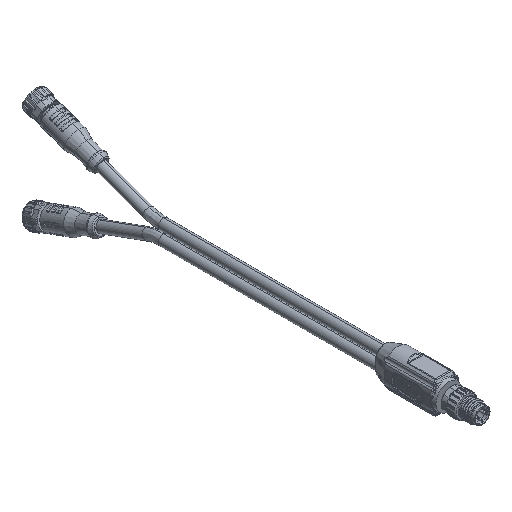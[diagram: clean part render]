
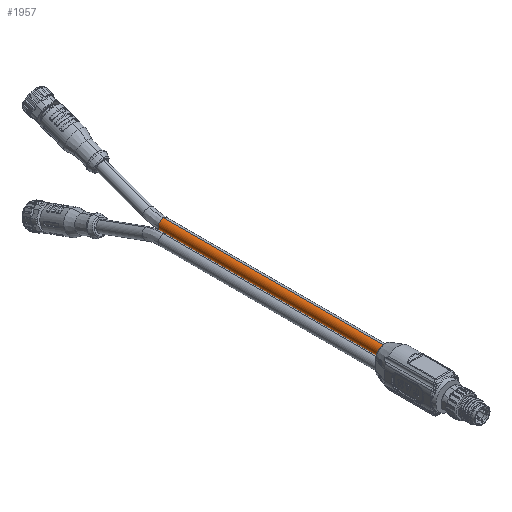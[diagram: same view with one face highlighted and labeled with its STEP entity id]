
A CAD part, isometric view. The second image highlights one B-rep face of the part: STEP entity #1957.
In plain terms, the highlighted cylindrical face has radius 2.25 mm (diameter 4.5 mm), a partial arc.
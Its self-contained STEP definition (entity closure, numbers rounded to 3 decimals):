
#162 = CARTESIAN_POINT ( 'NONE',  ( 0., 124.473, 5.25 ) ) ;
#1945 = DIRECTION ( 'NONE',  ( 0., 0., 1. ) ) ;
#1957 = ADVANCED_FACE ( 'NONE', ( #11272 ), #23246, .T. ) ;
#3007 = DIRECTION ( 'NONE',  ( 0., 1., 0. ) ) ;
#3045 = DIRECTION ( 'NONE',  ( 0., 1., 0. ) ) ;
#3835 = CIRCLE ( 'NONE', #24388, 2.25 ) ;
#6766 = VECTOR ( 'NONE', #3007, 1000. ) ;
#11173 = ORIENTED_EDGE ( 'NONE', *, *, #63429, .T. ) ;
#11272 = FACE_OUTER_BOUND ( 'NONE', #17279, .T. ) ;
#15074 = CIRCLE ( 'NONE', #53775, 2.25 ) ;
#17279 = EDGE_LOOP ( 'NONE', ( #49836, #11173, #57100, #64433 ) ) ;
#18003 = LINE ( 'NONE', #49259, #6766 ) ;
#23014 = LINE ( 'NONE', #57960, #39099 ) ;
#23246 = CYLINDRICAL_SURFACE ( 'NONE', #48452, 2.25 ) ;
#24388 = AXIS2_PLACEMENT_3D ( 'NONE', #34247, #28816, #60239 ) ;
#27476 = DIRECTION ( 'NONE',  ( 0., 1., 0. ) ) ;
#27698 = CARTESIAN_POINT ( 'NONE',  ( 0., 28., 3. ) ) ;
#28729 = DIRECTION ( 'NONE',  ( 0., 1., 0. ) ) ;
#28816 = DIRECTION ( 'NONE',  ( 0., -1., 0. ) ) ;
#34247 = CARTESIAN_POINT ( 'NONE',  ( 0., 124.473, 3. ) ) ;
#34944 = VERTEX_POINT ( 'NONE', #42071 ) ;
#38930 = DIRECTION ( 'NONE',  ( 0., 0., 1. ) ) ;
#39099 = VECTOR ( 'NONE', #28729, 1000. ) ;
#39180 = VERTEX_POINT ( 'NONE', #41452 ) ;
#41452 = CARTESIAN_POINT ( 'NONE',  ( 0., 124.473, 0.75 ) ) ;
#42071 = CARTESIAN_POINT ( 'NONE',  ( 0., 28., 5.25 ) ) ;
#46116 = EDGE_CURVE ( 'NONE', #65480, #39180, #3835, .T. ) ;
#48452 = AXIS2_PLACEMENT_3D ( 'NONE', #53317, #27476, #1945 ) ;
#49259 = CARTESIAN_POINT ( 'NONE',  ( 0., 28., 0.75 ) ) ;
#49836 = ORIENTED_EDGE ( 'NONE', *, *, #50743, .F. ) ;
#50743 = EDGE_CURVE ( 'NONE', #54451, #39180, #18003, .T. ) ;
#53317 = CARTESIAN_POINT ( 'NONE',  ( 0., 28., 3. ) ) ;
#53775 = AXIS2_PLACEMENT_3D ( 'NONE', #27698, #3045, #38930 ) ;
#54451 = VERTEX_POINT ( 'NONE', #58342 ) ;
#57100 = ORIENTED_EDGE ( 'NONE', *, *, #63990, .T. ) ;
#57960 = CARTESIAN_POINT ( 'NONE',  ( 0., 28., 5.25 ) ) ;
#58342 = CARTESIAN_POINT ( 'NONE',  ( 0., 28., 0.75 ) ) ;
#60239 = DIRECTION ( 'NONE',  ( 0., 0., 1. ) ) ;
#63429 = EDGE_CURVE ( 'NONE', #54451, #34944, #15074, .T. ) ;
#63990 = EDGE_CURVE ( 'NONE', #34944, #65480, #23014, .T. ) ;
#64433 = ORIENTED_EDGE ( 'NONE', *, *, #46116, .T. ) ;
#65480 = VERTEX_POINT ( 'NONE', #162 ) ;
